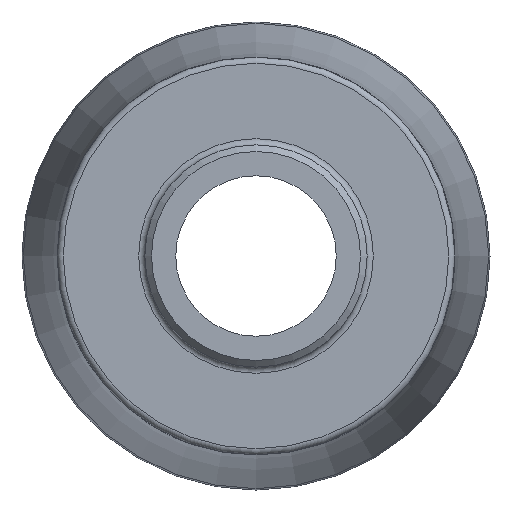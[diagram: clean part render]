
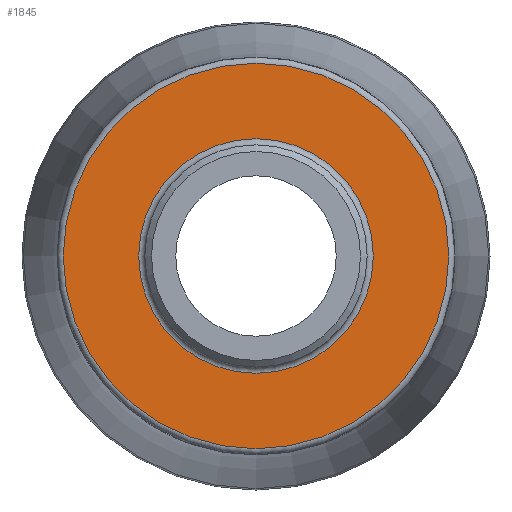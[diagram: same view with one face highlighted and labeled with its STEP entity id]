
A CAD part, left-side view. The second image highlights one B-rep face of the part: STEP entity #1845.
In plain terms, the highlighted planar face has unit normal (-1, 0, 0).
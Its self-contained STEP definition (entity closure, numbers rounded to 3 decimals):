
#194=FACE_BOUND('',#408,.T.);
#208=PLANE('',#2054);
#294=FACE_OUTER_BOUND('',#407,.T.);
#407=EDGE_LOOP('',(#1458,#1459));
#408=EDGE_LOOP('',(#1460,#1461));
#744=CIRCLE('',#2052,17.55);
#745=CIRCLE('',#2053,17.55);
#746=CIRCLE('',#2055,28.825);
#747=CIRCLE('',#2056,28.825);
#881=VERTEX_POINT('',#3251);
#882=VERTEX_POINT('',#3253);
#883=VERTEX_POINT('',#3257);
#884=VERTEX_POINT('',#3258);
#1092=EDGE_CURVE('',#881,#882,#744,.T.);
#1093=EDGE_CURVE('',#882,#881,#745,.T.);
#1094=EDGE_CURVE('',#883,#884,#746,.T.);
#1095=EDGE_CURVE('',#884,#883,#747,.T.);
#1458=ORIENTED_EDGE('',*,*,#1094,.F.);
#1459=ORIENTED_EDGE('',*,*,#1095,.F.);
#1460=ORIENTED_EDGE('',*,*,#1093,.F.);
#1461=ORIENTED_EDGE('',*,*,#1092,.F.);
#1845=ADVANCED_FACE('',(#294,#194),#208,.T.);
#2052=AXIS2_PLACEMENT_3D('',#3254,#2427,#2428);
#2053=AXIS2_PLACEMENT_3D('',#3255,#2429,#2430);
#2054=AXIS2_PLACEMENT_3D('',#3256,#2431,#2432);
#2055=AXIS2_PLACEMENT_3D('',#3259,#2433,#2434);
#2056=AXIS2_PLACEMENT_3D('',#3260,#2435,#2436);
#2427=DIRECTION('center_axis',(-1.,0.,0.));
#2428=DIRECTION('ref_axis',(0.,-1.,0.));
#2429=DIRECTION('center_axis',(-1.,0.,0.));
#2430=DIRECTION('ref_axis',(0.,-1.,0.));
#2431=DIRECTION('center_axis',(-1.,0.,0.));
#2432=DIRECTION('ref_axis',(0.,0.,1.));
#2433=DIRECTION('center_axis',(1.,0.,0.));
#2434=DIRECTION('ref_axis',(0.,-1.,0.));
#2435=DIRECTION('center_axis',(1.,0.,0.));
#2436=DIRECTION('ref_axis',(0.,-1.,0.));
#3251=CARTESIAN_POINT('',(19.,0.,17.55));
#3253=CARTESIAN_POINT('',(19.,17.55,0.));
#3254=CARTESIAN_POINT('Origin',(19.,0.,0.));
#3255=CARTESIAN_POINT('Origin',(19.,0.,0.));
#3256=CARTESIAN_POINT('Origin',(19.,29.75,0.));
#3257=CARTESIAN_POINT('',(19.,28.825,0.));
#3258=CARTESIAN_POINT('',(19.,0.,28.825));
#3259=CARTESIAN_POINT('Origin',(19.,0.,0.));
#3260=CARTESIAN_POINT('Origin',(19.,0.,0.));
